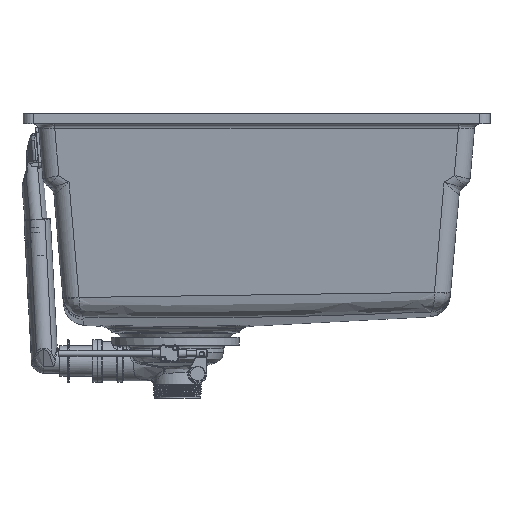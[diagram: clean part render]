
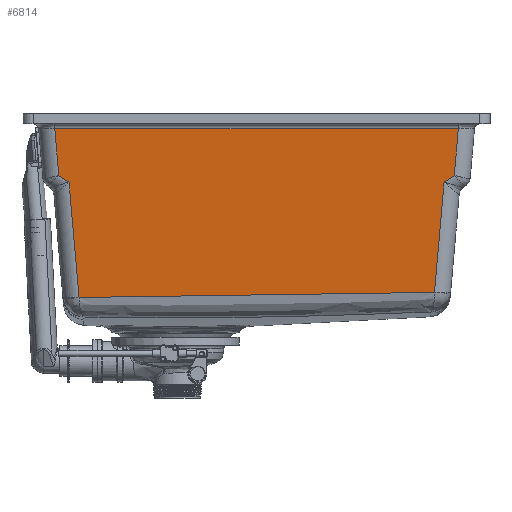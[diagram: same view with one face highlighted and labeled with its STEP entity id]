
A CAD part, left-side view. The second image highlights one B-rep face of the part: STEP entity #6814.
In plain terms, the highlighted planar face has unit normal (-0.996, 0, -0.087).
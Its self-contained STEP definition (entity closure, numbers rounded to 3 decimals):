
#6814=ADVANCED_FACE('',(#9375),#44279,.T.);
#9375=FACE_OUTER_BOUND('',#12023,.T.);
#12023=EDGE_LOOP('',(#21450,#21451,#21452,#21453,#21454,#21455,#21456,#21457,
#21458));
#21450=ORIENTED_EDGE('',*,*,#31206,.F.);
#21451=ORIENTED_EDGE('',*,*,#31167,.F.);
#21452=ORIENTED_EDGE('',*,*,#31189,.F.);
#21453=ORIENTED_EDGE('',*,*,#31216,.F.);
#21454=ORIENTED_EDGE('',*,*,#31217,.F.);
#21455=ORIENTED_EDGE('',*,*,#31190,.F.);
#21456=ORIENTED_EDGE('',*,*,#31172,.F.);
#21457=ORIENTED_EDGE('',*,*,#31208,.F.);
#21458=ORIENTED_EDGE('',*,*,#31044,.T.);
#31044=EDGE_CURVE('',#41352,#41349,#36733,.T.);
#31167=EDGE_CURVE('',#41402,#41373,#36790,.T.);
#31172=EDGE_CURVE('',#41363,#41392,#36793,.T.);
#31189=EDGE_CURVE('',#41406,#41402,#36799,.T.);
#31190=EDGE_CURVE('',#41392,#41413,#36800,.T.);
#31206=EDGE_CURVE('',#41373,#41349,#36811,.T.);
#31208=EDGE_CURVE('',#41352,#41363,#36812,.T.);
#31216=EDGE_CURVE('',#41405,#41406,#36816,.T.);
#31217=EDGE_CURVE('',#41413,#41405,#36817,.T.);
#36733=B_SPLINE_CURVE_WITH_KNOTS('',1,(#79451,#79452),.UNSPECIFIED.,.F.,
 .F.,(2,2),(-397.619,0.),.UNSPECIFIED.);
#36790=B_SPLINE_CURVE_WITH_KNOTS('',1,(#82063,#82064),.UNSPECIFIED.,.F.,
 .F.,(2,2),(0.,11.937),.UNSPECIFIED.);
#36793=B_SPLINE_CURVE_WITH_KNOTS('',1,(#82075,#82076),.UNSPECIFIED.,.F.,
 .F.,(2,2),(0.,11.937),.UNSPECIFIED.);
#36799=B_SPLINE_CURVE_WITH_KNOTS('',1,(#82120,#82121),.UNSPECIFIED.,.F.,
 .F.,(2,2),(0.,114.482),.UNSPECIFIED.);
#36800=B_SPLINE_CURVE_WITH_KNOTS('',1,(#82122,#82123),.UNSPECIFIED.,.F.,
 .F.,(2,2),(0.,109.598),.UNSPECIFIED.);
#36811=B_SPLINE_CURVE_WITH_KNOTS('',1,(#82225,#82226),.UNSPECIFIED.,.F.,
 .F.,(2,2),(0.,46.451),.UNSPECIFIED.);
#36812=B_SPLINE_CURVE_WITH_KNOTS('',1,(#82232,#82233),.UNSPECIFIED.,.F.,
 .F.,(2,2),(0.,46.451),.UNSPECIFIED.);
#36816=B_SPLINE_CURVE_WITH_KNOTS('',3,(#82256,#82257,#82258,#82259),
 .UNSPECIFIED.,.F.,.F.,(4,4),(-0.148,0.),.UNSPECIFIED.);
#36817=B_SPLINE_CURVE_WITH_KNOTS('',3,(#82260,#82261,#82262,#82263,#82264,
#82265,#82266,#82267,#82268,#82269,#82270,#82271,#82272,#82273,#82274,#82275,
#82276,#82277,#82278,#82279,#82280,#82281,#82282,#82283,#82284),
 .UNSPECIFIED.,.F.,.F.,(4,3,3,3,3,3,3,3,4),(-350.179,-278.973,
-175.085,-175.077,-166.88,-87.542,-86.482,
-73.754,0.),.UNSPECIFIED.);
#41349=VERTEX_POINT('',#79095);
#41352=VERTEX_POINT('',#79098);
#41363=VERTEX_POINT('',#79109);
#41373=VERTEX_POINT('',#79119);
#41392=VERTEX_POINT('',#79138);
#41402=VERTEX_POINT('',#79148);
#41405=VERTEX_POINT('',#79151);
#41406=VERTEX_POINT('',#79152);
#41413=VERTEX_POINT('',#79159);
#44279=PLANE('',#47472);
#47472=AXIS2_PLACEMENT_3D('',#77527,#52428,$);
#52428=DIRECTION('',(-0.996,0.,-0.087));
#77527=CARTESIAN_POINT('',(-248.629,-241.872,-58.737));
#79095=CARTESIAN_POINT('',(-264.749,195.629,125.518));
#79098=CARTESIAN_POINT('',(-264.749,-201.99,125.518));
#79109=CARTESIAN_POINT('',(-260.715,-197.957,79.418));
#79119=CARTESIAN_POINT('',(-260.715,191.596,79.418));
#79138=CARTESIAN_POINT('',(-260.147,-187.957,72.924));
#79148=CARTESIAN_POINT('',(-260.147,181.596,72.924));
#79151=CARTESIAN_POINT('',(-250.194,171.641,-40.839));
#79152=CARTESIAN_POINT('',(-250.207,171.656,-40.692));
#79159=CARTESIAN_POINT('',(-250.631,-178.441,-35.845));
#79451=CARTESIAN_POINT('',(-264.749,-201.99,125.518));
#79452=CARTESIAN_POINT('',(-264.749,195.629,125.518));
#82063=CARTESIAN_POINT('',(-260.147,181.596,72.924));
#82064=CARTESIAN_POINT('',(-260.715,191.596,79.418));
#82075=CARTESIAN_POINT('',(-260.715,-197.957,79.418));
#82076=CARTESIAN_POINT('',(-260.147,-187.957,72.924));
#82120=CARTESIAN_POINT('',(-250.207,171.656,-40.692));
#82121=CARTESIAN_POINT('',(-260.147,181.596,72.924));
#82122=CARTESIAN_POINT('',(-260.147,-187.957,72.924));
#82123=CARTESIAN_POINT('',(-250.631,-178.441,-35.845));
#82225=CARTESIAN_POINT('',(-260.715,191.596,79.418));
#82226=CARTESIAN_POINT('',(-264.749,195.629,125.518));
#82232=CARTESIAN_POINT('',(-264.749,-201.99,125.518));
#82233=CARTESIAN_POINT('',(-260.715,-197.957,79.418));
#82256=CARTESIAN_POINT('',(-250.194,171.641,-40.839));
#82257=CARTESIAN_POINT('',(-250.199,171.647,-40.79));
#82258=CARTESIAN_POINT('',(-250.203,171.652,-40.741));
#82259=CARTESIAN_POINT('',(-250.207,171.656,-40.692));
#82260=CARTESIAN_POINT('',(-250.631,-178.441,-35.845));
#82261=CARTESIAN_POINT('',(-250.55,-154.723,-36.772));
#82262=CARTESIAN_POINT('',(-250.474,-131.004,-37.648));
#82263=CARTESIAN_POINT('',(-250.405,-107.282,-38.43));
#82264=CARTESIAN_POINT('',(-250.305,-72.673,-39.571));
#82265=CARTESIAN_POINT('',(-250.223,-38.057,-40.51));
#82266=CARTESIAN_POINT('',(-250.17,-3.431,-41.112));
#82267=CARTESIAN_POINT('',(-250.17,-3.429,-41.112));
#82268=CARTESIAN_POINT('',(-250.17,-3.426,-41.112));
#82269=CARTESIAN_POINT('',(-250.17,-3.423,-41.112));
#82270=CARTESIAN_POINT('',(-250.166,-0.691,-41.16));
#82271=CARTESIAN_POINT('',(-250.162,2.041,-41.205));
#82272=CARTESIAN_POINT('',(-250.159,4.773,-41.248));
#82273=CARTESIAN_POINT('',(-250.122,31.218,-41.664));
#82274=CARTESIAN_POINT('',(-250.104,57.662,-41.868));
#82275=CARTESIAN_POINT('',(-250.108,84.106,-41.824));
#82276=CARTESIAN_POINT('',(-250.108,84.46,-41.824));
#82277=CARTESIAN_POINT('',(-250.108,84.813,-41.823));
#82278=CARTESIAN_POINT('',(-250.108,85.166,-41.822));
#82279=CARTESIAN_POINT('',(-250.109,89.409,-41.814));
#82280=CARTESIAN_POINT('',(-250.11,93.652,-41.8));
#82281=CARTESIAN_POINT('',(-250.112,97.895,-41.779));
#82282=CARTESIAN_POINT('',(-250.123,122.477,-41.659));
#82283=CARTESIAN_POINT('',(-250.151,147.059,-41.333));
#82284=CARTESIAN_POINT('',(-250.194,171.641,-40.839));
